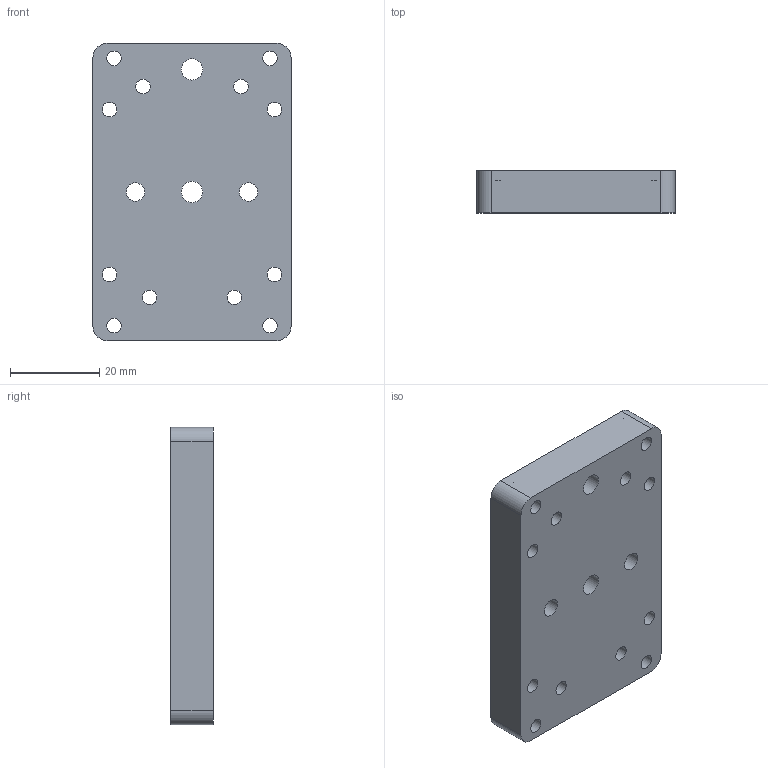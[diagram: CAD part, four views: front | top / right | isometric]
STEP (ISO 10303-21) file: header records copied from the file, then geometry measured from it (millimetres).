
FILE_DESCRIPTION(/* description */ ('Unknown'),/* implementation_level */ '2;1');
FILE_NAME(/* name */ 'SLM-520XS-C-DMIC',/* time_stamp */ '2016-08-08T15:27:32-04:00',/* author */ ('Unknown'),/* organization */ ('Unknown'),/* preprocessor_version */ 'ST-DEVELOPER v16.7',/* originating_system */ 'DEX',/* authorisation */ $);
FILE_SCHEMA (('AUTOMOTIVE_DESIGN {1 0 10303 214 3 1 1}'));
Length unit declared in the file: millimetre
Products named in the file (1): SLM-520XS-C-DMIC
Bounding box: 44.45 x 9.53 x 66.67 mm (x, y, z)
Volume: 25521.9 mm3; surface area: 9741.4 mm2
Topology: 1 solids, 1 shells, 54 faces, 116 edges, 78 vertices
Faces by surface type: cylinder 34, plane 20
Full cylindrical faces by diameter (mm): 3.264 x12, 4.134 x2, 4.763 x2, 6.35 x12, 9.525 x2
Entity records: 1802 total; most frequent: DIRECTION 262, CARTESIAN_POINT 215, ORIENTED_EDGE 168, EDGE_LOOP 130, FACE_BOUND 130, AXIS2_PLACEMENT_3D 123, EDGE_CURVE 84, VERTEX_POINT 76
